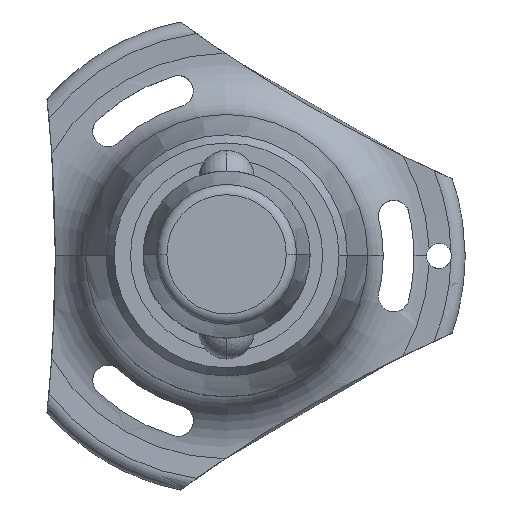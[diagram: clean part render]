
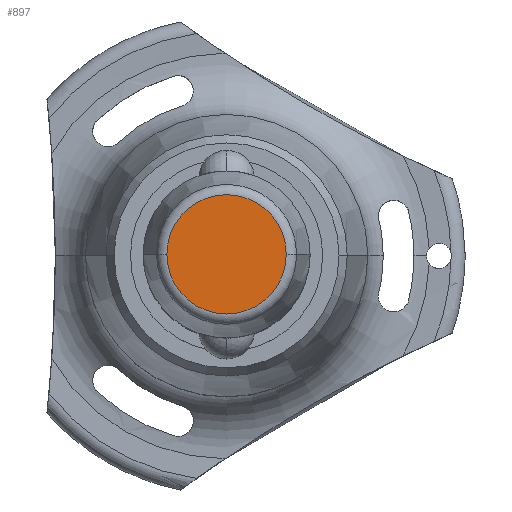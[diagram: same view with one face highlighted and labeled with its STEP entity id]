
A CAD part, top view. The second image highlights one B-rep face of the part: STEP entity #897.
In plain terms, the highlighted planar face has unit normal (0, 0, 1).
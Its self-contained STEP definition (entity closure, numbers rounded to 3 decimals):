
#23 = AXIS2_PLACEMENT_3D ( 'NONE', #740, #2692, #970 ) ;
#55 = DIRECTION ( 'NONE',  ( 0., 0., 1. ) ) ;
#248 = CARTESIAN_POINT ( 'NONE',  ( 0., 0., 20.5 ) ) ;
#291 = VERTEX_POINT ( 'NONE', #378 ) ;
#378 = CARTESIAN_POINT ( 'NONE',  ( 7.144, 0., 20.5 ) ) ;
#740 = CARTESIAN_POINT ( 'NONE',  ( 0., 0., 20.5 ) ) ;
#746 = CARTESIAN_POINT ( 'NONE',  ( -7.144, 0., 20.5 ) ) ;
#802 = AXIS2_PLACEMENT_3D ( 'NONE', #248, #1796, #1579 ) ;
#884 = PLANE ( 'NONE',  #802 ) ;
#897 = ADVANCED_FACE ( 'NONE', ( #2469 ), #884, .T. ) ;
#952 = CARTESIAN_POINT ( 'NONE',  ( 0., 0., 20.5 ) ) ;
#970 = DIRECTION ( 'NONE',  ( 1., 0., 0. ) ) ;
#1170 = DIRECTION ( 'NONE',  ( 1., 0., 0. ) ) ;
#1289 = EDGE_CURVE ( 'NONE', #291, #2435, #2513, .T. ) ;
#1347 = EDGE_LOOP ( 'NONE', ( #2172, #1425 ) ) ;
#1425 = ORIENTED_EDGE ( 'NONE', *, *, #2777, .T. ) ;
#1579 = DIRECTION ( 'NONE',  ( 1., 0., 0. ) ) ;
#1732 = CIRCLE ( 'NONE', #23, 7.144 ) ;
#1796 = DIRECTION ( 'NONE',  ( 0., 0., 1. ) ) ;
#1914 = AXIS2_PLACEMENT_3D ( 'NONE', #952, #55, #1170 ) ;
#2172 = ORIENTED_EDGE ( 'NONE', *, *, #1289, .T. ) ;
#2435 = VERTEX_POINT ( 'NONE', #746 ) ;
#2469 = FACE_OUTER_BOUND ( 'NONE', #1347, .T. ) ;
#2513 = CIRCLE ( 'NONE', #1914, 7.144 ) ;
#2692 = DIRECTION ( 'NONE',  ( 0., 0., 1. ) ) ;
#2777 = EDGE_CURVE ( 'NONE', #2435, #291, #1732, .T. ) ;
